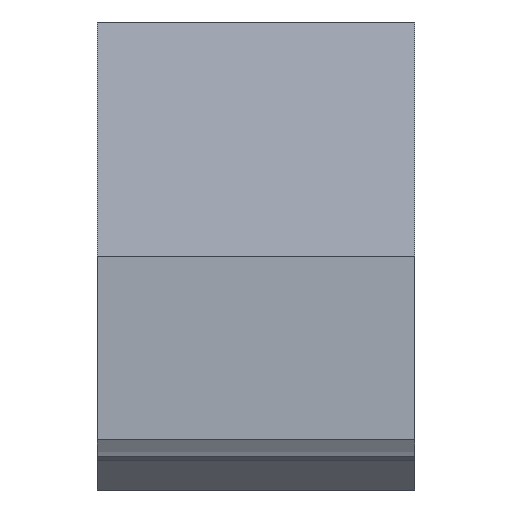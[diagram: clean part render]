
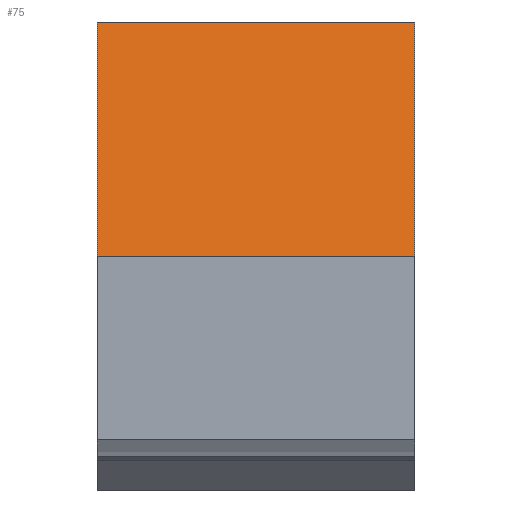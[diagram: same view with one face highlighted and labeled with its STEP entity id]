
A CAD part, left-side view. The second image highlights one B-rep face of the part: STEP entity #75.
In plain terms, the highlighted planar face has unit normal (-0.5, 0, 0.866).
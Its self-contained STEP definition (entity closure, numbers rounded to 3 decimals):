
#75 = ADVANCED_FACE( '', ( #98 ), #99, .T. );
#98 = FACE_OUTER_BOUND( '', #148, .T. );
#99 = PLANE( '', #149 );
#148 = EDGE_LOOP( '', ( #198, #199, #200, #201 ) );
#149 = AXIS2_PLACEMENT_3D( '', #202, #203, #204 );
#198 = ORIENTED_EDGE( '', *, *, #380, .F. );
#199 = ORIENTED_EDGE( '', *, *, #381, .F. );
#200 = ORIENTED_EDGE( '', *, *, #382, .T. );
#201 = ORIENTED_EDGE( '', *, *, #383, .T. );
#202 = CARTESIAN_POINT( '', ( -31.5, -9.5, 4. ) );
#203 = DIRECTION( '', ( -0.5, 0., 0.866 ) );
#204 = DIRECTION( '', ( 0.866, 0., 0.5 ) );
#380 = EDGE_CURVE( '', #438, #439, #440, .T. );
#381 = EDGE_CURVE( '', #441, #438, #442, .T. );
#382 = EDGE_CURVE( '', #441, #443, #444, .T. );
#383 = EDGE_CURVE( '', #443, #439, #445, .T. );
#438 = VERTEX_POINT( '', #536 );
#439 = VERTEX_POINT( '', #537 );
#440 = LINE( '', #538, #539 );
#441 = VERTEX_POINT( '', #540 );
#442 = LINE( '', #541, #542 );
#443 = VERTEX_POINT( '', #543 );
#444 = LINE( '', #544, #545 );
#445 = LINE( '', #546, #547 );
#536 = CARTESIAN_POINT( '', ( -31.5, 9.5, 4. ) );
#537 = CARTESIAN_POINT( '', ( -7.251, 9.5, 18. ) );
#538 = CARTESIAN_POINT( '', ( -31.5, 9.5, 4. ) );
#539 = VECTOR( '', #680, 1000. );
#540 = CARTESIAN_POINT( '', ( -31.5, -9.5, 4. ) );
#541 = CARTESIAN_POINT( '', ( -31.5, -9.5, 4. ) );
#542 = VECTOR( '', #681, 1000. );
#543 = CARTESIAN_POINT( '', ( -7.251, -9.5, 18. ) );
#544 = CARTESIAN_POINT( '', ( -31.5, -9.5, 4. ) );
#545 = VECTOR( '', #682, 1000. );
#546 = CARTESIAN_POINT( '', ( -7.251, -9.5, 18. ) );
#547 = VECTOR( '', #683, 1000. );
#680 = DIRECTION( '', ( 0.866, 0., 0.5 ) );
#681 = DIRECTION( '', ( 0., 1., 0. ) );
#682 = DIRECTION( '', ( 0.866, 0., 0.5 ) );
#683 = DIRECTION( '', ( 0., 1., 0. ) );
